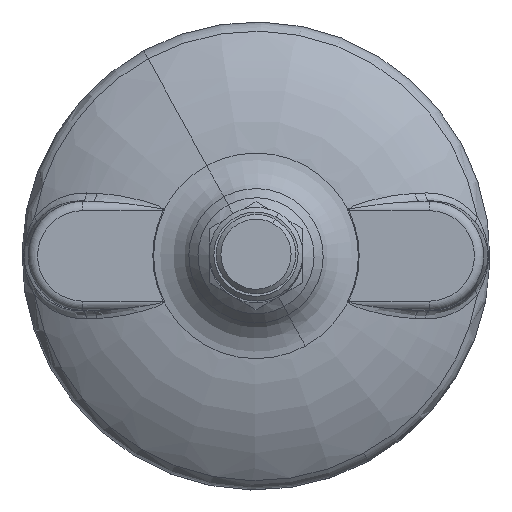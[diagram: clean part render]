
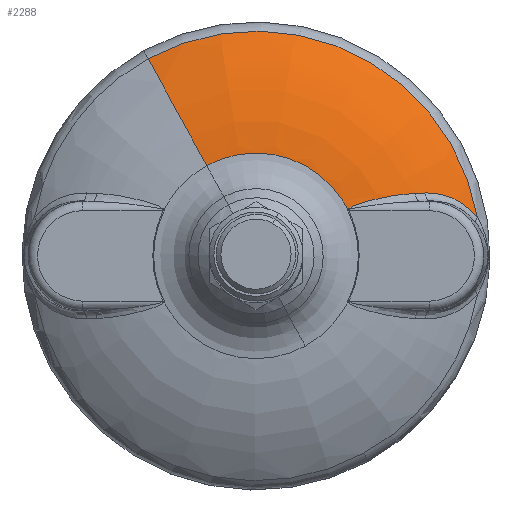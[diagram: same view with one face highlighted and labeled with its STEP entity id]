
A CAD part, top view. The second image highlights one B-rep face of the part: STEP entity #2288.
In plain terms, the highlighted face is a revolution surface.
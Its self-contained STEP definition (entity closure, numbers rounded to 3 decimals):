
#1851=CARTESIAN_POINT('Vertex',(47.325,8.176,8.98)) ;
#1940=CARTESIAN_POINT('Control Point',(47.325,8.176,8.98)) ;
#1941=CARTESIAN_POINT('Control Point',(46.91,8.717,9.221)) ;
#1942=CARTESIAN_POINT('Control Point',(46.473,9.215,9.472)) ;
#1943=CARTESIAN_POINT('Control Point',(46.019,9.674,9.728)) ;
#1944=CARTESIAN_POINT('Control Point',(44.629,10.925,10.504)) ;
#1945=CARTESIAN_POINT('Control Point',(43.134,11.862,11.304)) ;
#1946=CARTESIAN_POINT('Control Point',(42.114,12.361,11.832)) ;
#1947=CARTESIAN_POINT('Control Point',(40.324,13.021,12.729)) ;
#1948=CARTESIAN_POINT('Control Point',(38.506,13.354,13.589)) ;
#1949=CARTESIAN_POINT('Control Point',(37.741,13.438,13.942)) ;
#1950=CARTESIAN_POINT('Control Point',(36.977,13.467,14.284)) ;
#1951=CARTESIAN_POINT('Control Point',(36.218,13.442,14.615)) ;
#1952=CARTESIAN_POINT('Vertex',(36.218,13.442,14.615)) ;
#1999=CARTESIAN_POINT('Vertex',(-23.025,42.147,8.98)) ;
#2002=CARTESIAN_POINT('Axis2P3D Location',(0.,0.,8.98)) ;
#2198=CARTESIAN_POINT('Control Point',(36.218,13.442,14.615)) ;
#2199=CARTESIAN_POINT('Control Point',(35.791,13.428,14.801)) ;
#2200=CARTESIAN_POINT('Control Point',(35.363,13.414,14.982)) ;
#2201=CARTESIAN_POINT('Control Point',(34.931,13.401,15.158)) ;
#2202=CARTESIAN_POINT('Control Point',(34.498,13.389,15.329)) ;
#2203=CARTESIAN_POINT('Control Point',(34.062,13.377,15.496)) ;
#2204=CARTESIAN_POINT('Vertex',(34.062,13.377,15.496)) ;
#2222=CARTESIAN_POINT('Control Point',(-23.025,42.147,8.98)) ;
#2223=CARTESIAN_POINT('Control Point',(-20.325,37.204,13.262)) ;
#2224=CARTESIAN_POINT('Control Point',(-17.237,31.552,16.482)) ;
#2225=CARTESIAN_POINT('Control Point',(-13.91,25.462,18.406)) ;
#2226=CARTESIAN_POINT('Control Point',(-10.53,19.275,19.)) ;
#2227=CARTESIAN_POINT('Axis1P Location',(0.,0.,-30.823)) ;
#2231=CARTESIAN_POINT('Axis2P3D Location',(-8.518,15.591,-30.823)) ;
#2235=CARTESIAN_POINT('Vertex',(-10.53,19.275,19.)) ;
#2238=CARTESIAN_POINT('Axis2P3D Location',(0.,0.,19.)) ;
#2242=CARTESIAN_POINT('Vertex',(18.713,11.5,19.)) ;
#2246=CARTESIAN_POINT('Control Point',(18.713,11.5,19.)) ;
#2247=CARTESIAN_POINT('Control Point',(19.047,10.957,19.)) ;
#2248=CARTESIAN_POINT('Control Point',(19.356,10.4,19.)) ;
#2249=CARTESIAN_POINT('Control Point',(19.642,9.83,19.)) ;
#2250=CARTESIAN_POINT('Vertex',(19.642,9.83,19.)) ;
#2254=CARTESIAN_POINT('Control Point',(34.062,13.377,15.496)) ;
#2255=CARTESIAN_POINT('Control Point',(32.511,13.334,16.089)) ;
#2256=CARTESIAN_POINT('Control Point',(30.96,13.179,16.628)) ;
#2257=CARTESIAN_POINT('Control Point',(29.409,12.947,17.109)) ;
#2258=CARTESIAN_POINT('Control Point',(27.036,12.494,17.752)) ;
#2259=CARTESIAN_POINT('Control Point',(24.668,11.903,18.253)) ;
#2260=CARTESIAN_POINT('Control Point',(23.849,11.681,18.409)) ;
#2261=CARTESIAN_POINT('Control Point',(22.811,11.383,18.585)) ;
#2262=CARTESIAN_POINT('Control Point',(21.784,11.033,18.733)) ;
#2263=CARTESIAN_POINT('Control Point',(21.568,10.957,18.763)) ;
#2264=CARTESIAN_POINT('Control Point',(21.209,10.825,18.811)) ;
#2265=CARTESIAN_POINT('Control Point',(20.853,10.679,18.855)) ;
#2266=CARTESIAN_POINT('Control Point',(20.711,10.617,18.873)) ;
#2267=CARTESIAN_POINT('Control Point',(20.473,10.509,18.901)) ;
#2268=CARTESIAN_POINT('Control Point',(20.24,10.386,18.928)) ;
#2269=CARTESIAN_POINT('Control Point',(20.146,10.332,18.939)) ;
#2270=CARTESIAN_POINT('Control Point',(20.022,10.255,18.953)) ;
#2271=CARTESIAN_POINT('Control Point',(19.903,10.165,18.966)) ;
#2272=CARTESIAN_POINT('Control Point',(19.873,10.141,18.97)) ;
#2273=CARTESIAN_POINT('Control Point',(19.8,10.078,18.978)) ;
#2274=CARTESIAN_POINT('Control Point',(19.733,10.005,18.986)) ;
#2275=CARTESIAN_POINT('Control Point',(19.696,9.958,18.991)) ;
#2276=CARTESIAN_POINT('Control Point',(19.66,9.899,18.996)) ;
#2277=CARTESIAN_POINT('Control Point',(19.642,9.83,19.)) ;
#2003=DIRECTION('Axis2P3D Direction',(0.,0.,1.)) ;
#2228=DIRECTION('Axis1P Direction',(-0.,-0.,-1.)) ;
#2232=DIRECTION('Axis2P3D Direction',(0.878,0.479,-0.)) ;
#2239=DIRECTION('Axis2P3D Direction',(0.,0.,1.)) ;
#2004=AXIS2_PLACEMENT_3D('Circle Axis2P3D',#2002,#2003,$) ;
#2233=AXIS2_PLACEMENT_3D('Circle Axis2P3D',#2231,#2232,$) ;
#2240=AXIS2_PLACEMENT_3D('Circle Axis2P3D',#2238,#2239,$) ;
#2280=ORIENTED_EDGE('',*,*,#2006,.T.) ;
#2281=ORIENTED_EDGE('',*,*,#2237,.T.) ;
#2282=ORIENTED_EDGE('',*,*,#2244,.F.) ;
#2283=ORIENTED_EDGE('',*,*,#2252,.T.) ;
#2284=ORIENTED_EDGE('',*,*,#2278,.T.) ;
#2285=ORIENTED_EDGE('',*,*,#2206,.T.) ;
#2286=ORIENTED_EDGE('',*,*,#1954,.T.) ;
#2288=ADVANCED_FACE('PartBody',(#2287),#2230,.F.) ;
#2229=AXIS1_PLACEMENT('Revolution Surface Axis1P',#2227,#2228) ;
#1939=B_SPLINE_CURVE_WITH_KNOTS('',5,(#1940,#1941,#1942,#1943,#1944,#1945,#1946,#1947,#1948,#1949,#1950,#1951),.UNSPECIFIED.,.F.,.U.,(6,3,3,6),(45.451,49.293,56.869,62.34),.UNSPECIFIED.) ;
#2197=B_SPLINE_CURVE_WITH_KNOTS('',5,(#2198,#2199,#2200,#2201,#2202,#2203),.UNSPECIFIED.,.F.,.U.,(6,6),(24.342,27.641),.UNSPECIFIED.) ;
#2221=B_SPLINE_CURVE_WITH_KNOTS('',4,(#2222,#2223,#2224,#2225,#2226),.UNSPECIFIED.,.F.,.U.,(5,5),(46.039,74.337),.UNSPECIFIED.) ;
#2245=B_SPLINE_CURVE_WITH_KNOTS('',3,(#2246,#2247,#2248,#2249),.UNSPECIFIED.,.F.,.U.,(4,4),(0.,2.459),.UNSPECIFIED.) ;
#2253=B_SPLINE_CURVE_WITH_KNOTS('',5,(#2254,#2255,#2256,#2257,#2258,#2259,#2260,#2261,#2262,#2263,#2264,#2265,#2266,#2267,#2268,#2269,#2270,#2271,#2272,#2273,#2274,#2275,#2276,#2277),.UNSPECIFIED.,.F.,.U.,(6,3,3,3,3,3,3,6),(17.604,29.043,35.113,36.733,37.817,38.561,38.813,39.192),.UNSPECIFIED.) ;
#2005=CIRCLE('generated circle',#2004,48.026) ;
#2234=CIRCLE('generated circle',#2233,50.) ;
#2241=CIRCLE('generated circle',#2240,21.964) ;
#1954=EDGE_CURVE('',#1953,#1852,#1939,.F.) ;
#2006=EDGE_CURVE('',#1852,#2000,#2005,.T.) ;
#2206=EDGE_CURVE('',#2205,#1953,#2197,.F.) ;
#2237=EDGE_CURVE('',#2000,#2236,#2234,.T.) ;
#2244=EDGE_CURVE('',#2243,#2236,#2241,.T.) ;
#2252=EDGE_CURVE('',#2243,#2251,#2245,.T.) ;
#2278=EDGE_CURVE('',#2251,#2205,#2253,.F.) ;
#2279=EDGE_LOOP('',(#2280,#2281,#2282,#2283,#2284,#2285,#2286)) ;
#2287=FACE_OUTER_BOUND('',#2279,.T.) ;
#2230=SURFACE_OF_REVOLUTION('homeo Torus',#2221,#2229) ;
#1852=VERTEX_POINT('',#1851) ;
#1953=VERTEX_POINT('',#1952) ;
#2000=VERTEX_POINT('',#1999) ;
#2205=VERTEX_POINT('',#2204) ;
#2236=VERTEX_POINT('',#2235) ;
#2243=VERTEX_POINT('',#2242) ;
#2251=VERTEX_POINT('',#2250) ;
